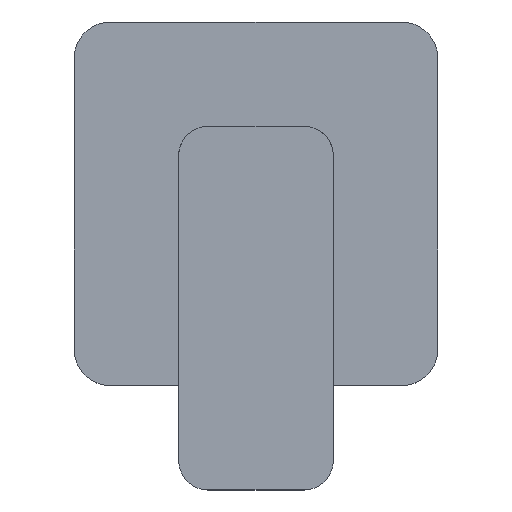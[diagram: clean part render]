
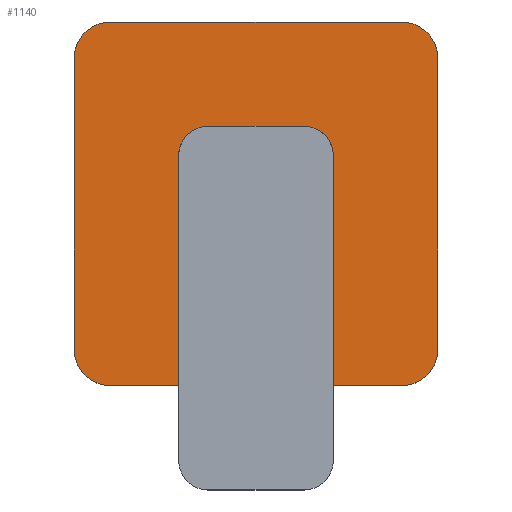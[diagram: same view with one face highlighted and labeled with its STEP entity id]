
A CAD part, top view. The second image highlights one B-rep face of the part: STEP entity #1140.
In plain terms, the highlighted planar face has unit normal (0, 0, 1).
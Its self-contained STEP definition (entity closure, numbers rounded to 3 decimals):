
#18=FACE_BOUND('',#341,.T.);
#68=LINE('',#1810,#166);
#71=LINE('',#1816,#169);
#72=LINE('',#1820,#170);
#73=LINE('',#1824,#171);
#166=VECTOR('',#1446,10.);
#169=VECTOR('',#1451,10.);
#170=VECTOR('',#1454,10.);
#171=VECTOR('',#1457,10.);
#275=FACE_OUTER_BOUND('',#340,.T.);
#340=EDGE_LOOP('',(#828,#829,#830,#831,#832,#833,#834,#835));
#341=EDGE_LOOP('',(#836,#837));
#410=CIRCLE('',#1244,10.);
#411=CIRCLE('',#1247,10.);
#412=CIRCLE('',#1248,10.);
#413=CIRCLE('',#1249,10.);
#414=CIRCLE('',#1250,20.);
#415=CIRCLE('',#1251,20.);
#484=VERTEX_POINT('',#1803);
#485=VERTEX_POINT('',#1805);
#486=VERTEX_POINT('',#1809);
#488=VERTEX_POINT('',#1815);
#489=VERTEX_POINT('',#1817);
#490=VERTEX_POINT('',#1819);
#491=VERTEX_POINT('',#1821);
#492=VERTEX_POINT('',#1823);
#493=VERTEX_POINT('',#1826);
#494=VERTEX_POINT('',#1827);
#612=EDGE_CURVE('',#484,#485,#410,.T.);
#614=EDGE_CURVE('',#485,#486,#68,.T.);
#617=EDGE_CURVE('',#488,#484,#71,.T.);
#618=EDGE_CURVE('',#489,#488,#411,.T.);
#619=EDGE_CURVE('',#490,#489,#72,.T.);
#620=EDGE_CURVE('',#491,#490,#412,.T.);
#621=EDGE_CURVE('',#492,#491,#73,.T.);
#622=EDGE_CURVE('',#486,#492,#413,.T.);
#623=EDGE_CURVE('',#493,#494,#414,.T.);
#624=EDGE_CURVE('',#494,#493,#415,.T.);
#828=ORIENTED_EDGE('',*,*,#612,.F.);
#829=ORIENTED_EDGE('',*,*,#617,.F.);
#830=ORIENTED_EDGE('',*,*,#618,.F.);
#831=ORIENTED_EDGE('',*,*,#619,.F.);
#832=ORIENTED_EDGE('',*,*,#620,.F.);
#833=ORIENTED_EDGE('',*,*,#621,.F.);
#834=ORIENTED_EDGE('',*,*,#622,.F.);
#835=ORIENTED_EDGE('',*,*,#614,.F.);
#836=ORIENTED_EDGE('',*,*,#623,.T.);
#837=ORIENTED_EDGE('',*,*,#624,.T.);
#1055=PLANE('',#1246);
#1140=ADVANCED_FACE('',(#275,#18),#1055,.F.);
#1244=AXIS2_PLACEMENT_3D('',#1806,#1441,#1442);
#1246=AXIS2_PLACEMENT_3D('',#1814,#1449,#1450);
#1247=AXIS2_PLACEMENT_3D('',#1818,#1452,#1453);
#1248=AXIS2_PLACEMENT_3D('',#1822,#1455,#1456);
#1249=AXIS2_PLACEMENT_3D('',#1825,#1458,#1459);
#1250=AXIS2_PLACEMENT_3D('',#1828,#1460,#1461);
#1251=AXIS2_PLACEMENT_3D('',#1829,#1462,#1463);
#1441=DIRECTION('center_axis',(0.,0.,-1.));
#1442=DIRECTION('ref_axis',(-0.707,-0.707,0.));
#1446=DIRECTION('',(0.,1.,0.));
#1449=DIRECTION('center_axis',(0.,0.,-1.));
#1450=DIRECTION('ref_axis',(-1.,0.,0.));
#1451=DIRECTION('',(-1.,0.,0.));
#1452=DIRECTION('center_axis',(0.,0.,-1.));
#1453=DIRECTION('ref_axis',(0.707,-0.707,0.));
#1454=DIRECTION('',(0.,-1.,0.));
#1455=DIRECTION('center_axis',(0.,0.,-1.));
#1456=DIRECTION('ref_axis',(0.707,0.707,0.));
#1457=DIRECTION('',(1.,0.,0.));
#1458=DIRECTION('center_axis',(0.,0.,-1.));
#1459=DIRECTION('ref_axis',(-0.707,0.707,0.));
#1460=DIRECTION('center_axis',(0.,0.,-1.));
#1461=DIRECTION('ref_axis',(0.,1.,0.));
#1462=DIRECTION('center_axis',(0.,0.,-1.));
#1463=DIRECTION('ref_axis',(0.,1.,0.));
#1803=CARTESIAN_POINT('',(-13.,-50.,8.));
#1805=CARTESIAN_POINT('',(-23.,-40.,8.));
#1806=CARTESIAN_POINT('Origin',(-13.,-40.,8.));
#1809=CARTESIAN_POINT('',(-23.,40.,8.));
#1810=CARTESIAN_POINT('',(-23.,-50.,8.));
#1814=CARTESIAN_POINT('Origin',(27.,0.,8.));
#1815=CARTESIAN_POINT('',(67.,-50.,8.));
#1816=CARTESIAN_POINT('',(77.,-50.,8.));
#1817=CARTESIAN_POINT('',(77.,-40.,8.));
#1818=CARTESIAN_POINT('Origin',(67.,-40.,8.));
#1819=CARTESIAN_POINT('',(77.,40.,8.));
#1820=CARTESIAN_POINT('',(77.,50.,8.));
#1821=CARTESIAN_POINT('',(67.,50.,8.));
#1822=CARTESIAN_POINT('Origin',(67.,40.,8.));
#1823=CARTESIAN_POINT('',(-13.,50.,8.));
#1824=CARTESIAN_POINT('',(-23.,50.,8.));
#1825=CARTESIAN_POINT('Origin',(-13.,40.,8.));
#1826=CARTESIAN_POINT('',(27.,20.,8.));
#1827=CARTESIAN_POINT('',(27.,-20.,8.));
#1828=CARTESIAN_POINT('Origin',(27.,0.,8.));
#1829=CARTESIAN_POINT('Origin',(27.,0.,8.));
